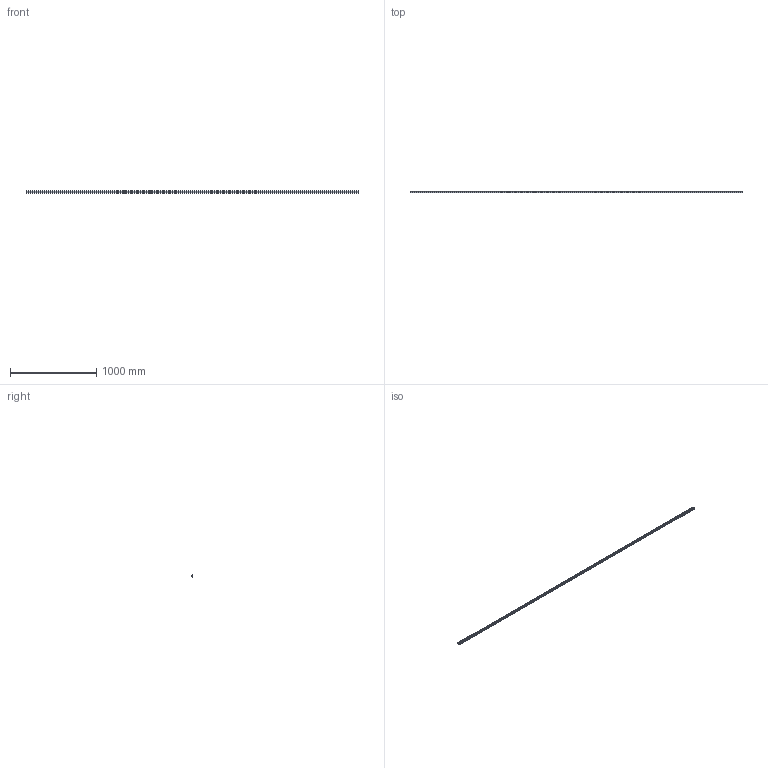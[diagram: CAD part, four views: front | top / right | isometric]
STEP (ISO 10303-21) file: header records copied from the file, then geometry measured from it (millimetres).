
FILE_DESCRIPTION (( 'STEP AP203' ), '1' );
FILE_NAME ('L1018.25R-3840.step', '2023-08-06T10:50:15', ( '' ), ( '' ), 'SwSTEP 2.0', 'SolidWorks 2019', '' );
FILE_SCHEMA (( 'CONFIG_CONTROL_DESIGN' ));
Length unit declared in the file: millimetre
Products named in the file (1): L1018.25R-3840
Bounding box: 3840 x 21.8 x 25 mm (x, y, z)
Volume: 1597010.3 mm3; surface area: 382157.2 mm2
Topology: 1 solids, 1 shells, 605 faces, 1361 edges, 758 vertices
Faces by surface type: cylinder 259, cone 256, plane 90
Entity records: 15974 total; most frequent: DIRECTION 3091, CARTESIAN_POINT 2597, ORIENTED_EDGE 2466, AXIS2_PLACEMENT_3D 1252, EDGE_CURVE 1233, VERTEX_POINT 758, EDGE_LOOP 733, CIRCLE 646
